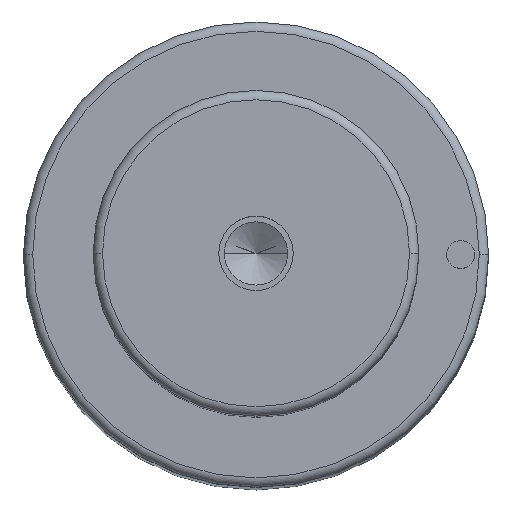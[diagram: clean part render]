
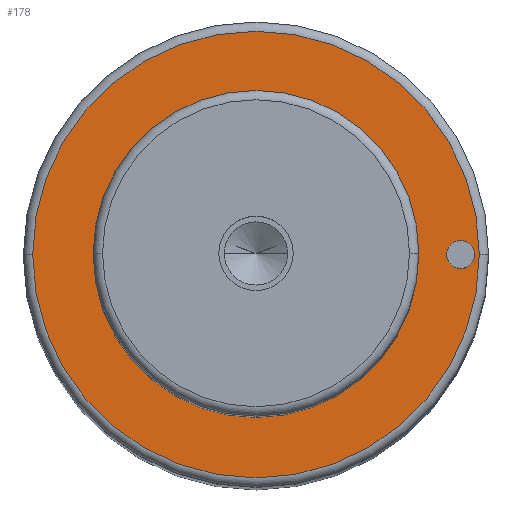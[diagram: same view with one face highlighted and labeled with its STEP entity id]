
A CAD part, top view. The second image highlights one B-rep face of the part: STEP entity #178.
In plain terms, the highlighted planar face has unit normal (0, 0, 1).
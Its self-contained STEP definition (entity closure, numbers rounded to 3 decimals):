
#105=PLANE('',#866);
#115=FACE_BOUND('',#283,.T.);
#116=FACE_BOUND('',#284,.T.);
#117=FACE_BOUND('',#285,.T.);
#178=ADVANCED_FACE('',(#115,#116,#117),#105,.T.);
#283=EDGE_LOOP('',(#473,#474));
#284=EDGE_LOOP('',(#475,#476));
#285=EDGE_LOOP('',(#477,#478));
#333=CIRCLE('',#834,17.5);
#334=CIRCLE('',#836,17.5);
#338=CIRCLE('',#841,24.);
#339=CIRCLE('',#843,24.);
#351=CIRCLE('',#864,1.5);
#352=CIRCLE('',#865,1.5);
#473=ORIENTED_EDGE('',*,*,#666,.F.);
#474=ORIENTED_EDGE('',*,*,#667,.F.);
#475=ORIENTED_EDGE('',*,*,#685,.F.);
#476=ORIENTED_EDGE('',*,*,#686,.F.);
#477=ORIENTED_EDGE('',*,*,#662,.T.);
#478=ORIENTED_EDGE('',*,*,#660,.T.);
#590=VERTEX_POINT('',#1233);
#591=VERTEX_POINT('',#1235);
#592=VERTEX_POINT('',#1241);
#595=VERTEX_POINT('',#1246);
#604=VERTEX_POINT('',#1285);
#605=VERTEX_POINT('',#1286);
#660=EDGE_CURVE('',#591,#590,#333,.T.);
#662=EDGE_CURVE('',#590,#591,#334,.T.);
#666=EDGE_CURVE('',#595,#592,#338,.T.);
#667=EDGE_CURVE('',#592,#595,#339,.T.);
#685=EDGE_CURVE('',#604,#605,#351,.T.);
#686=EDGE_CURVE('',#605,#604,#352,.T.);
#834=AXIS2_PLACEMENT_3D('',#1234,#985,#986);
#836=AXIS2_PLACEMENT_3D('',#1238,#990,#991);
#841=AXIS2_PLACEMENT_3D('',#1247,#1000,#1001);
#843=AXIS2_PLACEMENT_3D('',#1249,#1004,#1005);
#864=AXIS2_PLACEMENT_3D('',#1284,#1052,#1053);
#865=AXIS2_PLACEMENT_3D('',#1287,#1054,#1055);
#866=AXIS2_PLACEMENT_3D('',#1288,#1056,#1057);
#985=DIRECTION('',(0.,0.,-1.));
#986=DIRECTION('',(0.,1.,0.));
#990=DIRECTION('',(0.,0.,-1.));
#991=DIRECTION('',(0.,-1.,0.));
#1000=DIRECTION('',(0.,0.,-1.));
#1001=DIRECTION('',(0.,1.,0.));
#1004=DIRECTION('',(0.,0.,-1.));
#1005=DIRECTION('',(0.,-1.,0.));
#1052=DIRECTION('',(0.,0.,1.));
#1053=DIRECTION('',(0.,1.,0.));
#1054=DIRECTION('',(0.,0.,1.));
#1055=DIRECTION('',(0.,-1.,0.));
#1056=DIRECTION('',(0.,0.,1.));
#1057=DIRECTION('',(0.,-1.,0.));
#1233=CARTESIAN_POINT('',(-17.5,0.,173.));
#1234=CARTESIAN_POINT('',(0.,0.,173.));
#1235=CARTESIAN_POINT('',(17.5,0.,173.));
#1238=CARTESIAN_POINT('',(0.,0.,173.));
#1241=CARTESIAN_POINT('',(-24.,0.,173.));
#1246=CARTESIAN_POINT('',(24.,0.,173.));
#1247=CARTESIAN_POINT('',(0.,0.,173.));
#1249=CARTESIAN_POINT('',(0.,0.,173.));
#1284=CARTESIAN_POINT('',(22.,0.,173.));
#1285=CARTESIAN_POINT('',(20.5,0.,173.));
#1286=CARTESIAN_POINT('',(23.5,0.,173.));
#1287=CARTESIAN_POINT('',(22.,0.,173.));
#1288=CARTESIAN_POINT('',(0.,0.,173.));
